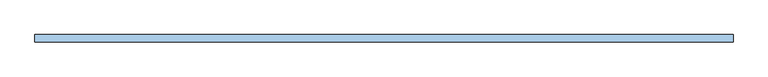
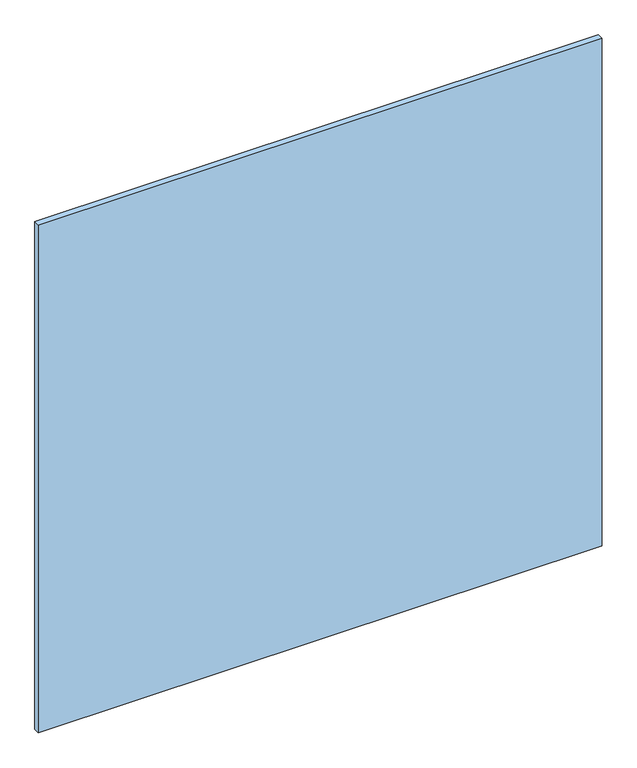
"""IFC4 building model written with IfcOpenShell, lengths in millimetres: window geometry, espejo biselado sin marco : ESP-2  espejo biselado 130 x 101."""

import ifcopenshell
import ifcopenshell.guid

model = None  # the IFC model being written
_history = None  # IfcOwnerHistory: only IFC2X3 demands one
_inside = {}  # id of a spatial element -> (the spatial element, [elements in it])
_under = {}  # id of a project, library or spatial element -> (it, [spatial elements below it])
_declared = {}  # id of a project -> (the project, [libraries it declares])
_typed = {}  # id of a type object -> (the type object, [elements of that type])
_made_of = {}  # id of a material, layer set ... -> (it, [elements and type objects made of it])


def new_model(schema):
    """Start an empty IFC model of exactly this schema.

    Asked for "IFC4X3", IfcOpenShell would pick the latest addendum, in which some entities
    have other attributes; the version numbers below select the first issue.
    IFC2X3 requires an IfcOwnerHistory on every rooted entity: one is made here for all.
    """
    global model, _history
    if schema == "IFC4X3":
        model = ifcopenshell.file(schema_version=(4, 3, 0, 0))
    else:
        model = ifcopenshell.file(schema=schema)
    _inside.clear()
    _under.clear()
    _declared.clear()
    _typed.clear()
    _made_of.clear()
    _history = None
    if model.schema == "IFC2X3":
        org = make("IfcOrganization", Name="unknown")
        user = make(
            "IfcPersonAndOrganization",
            ThePerson=make("IfcPerson", FamilyName="unknown"),
            TheOrganization=org,
        )
        app = make(
            "IfcApplication",
            ApplicationDeveloper=org,
            Version="unknown",
            ApplicationFullName="unknown",
            ApplicationIdentifier="unknown",
        )
        _history = make(
            "IfcOwnerHistory",
            OwningUser=user,
            OwningApplication=app,
            ChangeAction="ADDED",
            CreationDate=0,
        )
    return model


def make(cls, **values):
    """One entity of the class cls with the attributes given. An attribute that is None is left unset."""
    return model.create_entity(
        cls, **{name: value for name, value in values.items() if value is not None}
    )


def rooted(cls, **values):
    """An entity with a GlobalId (a new one), such as an element, a storey or a relation."""
    return make(cls, GlobalId=ifcopenshell.guid.new(), OwnerHistory=_history, **values)


def si_unit(unit_type, name, prefix=None):
    """IfcSIUnit, for example si_unit("LENGTHUNIT", "METRE", prefix="MILLI")."""
    return make("IfcSIUnit", UnitType=unit_type, Prefix=prefix, Name=name)


def assignment(units):
    """IfcUnitAssignment: the units of a project."""
    return None if units is None else make("IfcUnitAssignment", Units=units)


def point(xyz):
    """IfcCartesianPoint."""
    return None if xyz is None else make("IfcCartesianPoint", Coordinates=xyz)


def direction(xyz):
    """IfcDirection."""
    return None if xyz is None else make("IfcDirection", DirectionRatios=xyz)


def frame(location, z_axis=None, x_axis=None):
    """IfcAxis2Placement3D, a coordinate frame: its origin and axes. An axis left out is left unset."""
    return make(
        "IfcAxis2Placement3D",
        Location=point(location),
        Axis=direction(z_axis),
        RefDirection=direction(x_axis),
    )


def origin():
    """The frame at (0, 0, 0) with its axes left unset."""
    return frame((0.0, 0.0, 0.0))


def origin_with_axes():
    """The frame at (0, 0, 0) with the z axis (0, 0, 1) and the x axis (1, 0, 0) written out."""
    return frame((0.0, 0.0, 0.0), z_axis=(0.0, 0.0, 1.0), x_axis=(1.0, 0.0, 0.0))


def place(relative_to, where):
    """IfcLocalPlacement: puts the frame where relative to a parent placement (None: the world)."""
    return make(
        "IfcLocalPlacement", PlacementRelTo=relative_to, RelativePlacement=where
    )


def context(
    kind, dimensions, precision=None, world=None, true_north=None, identifier=None
):
    """IfcGeometricRepresentationContext, for example the 3D "Model" context."""
    return make(
        "IfcGeometricRepresentationContext",
        ContextIdentifier=identifier,
        ContextType=kind,
        CoordinateSpaceDimension=dimensions,
        Precision=precision,
        WorldCoordinateSystem=world,
        TrueNorth=true_north,
    )


def project(units=None, contexts=None):
    """IfcProject with its units and contexts."""
    return rooted(
        "IfcProject",
        Name="project",
        RepresentationContexts=contexts,
        UnitsInContext=assignment(units),
    )


def spatial(cls, under=None, at=None, **own):
    """A site, building, storey or space (cls), placed at a placement, below another one or the project."""
    s = rooted(cls, ObjectPlacement=at, **own)
    if under is not None:
        _under.setdefault(under.id(), (under, []))[1].append(s)
    return s


def polyline(points):
    """IfcPolyline through the points."""
    return make("IfcPolyline", Points=[point(p) for p in points])


def outline(outer, holes=None, kind="AREA"):
    """IfcArbitraryClosedProfileDef: a profile drawn as a closed curve; with holes, ...WithVoids."""
    if holes is None:
        return make("IfcArbitraryClosedProfileDef", ProfileType=kind, OuterCurve=outer)
    return make(
        "IfcArbitraryProfileDefWithVoids",
        ProfileType=kind,
        OuterCurve=outer,
        InnerCurves=holes,
    )


def extrude(swept, where, along, depth):
    """IfcExtrudedAreaSolid: the profile swept, set in the frame where, extruded along a direction by depth."""
    return make(
        "IfcExtrudedAreaSolid",
        SweptArea=swept,
        Position=where,
        ExtrudedDirection=direction(along),
        Depth=depth,
    )


def shape(context_of_items, identifier, shape_type, items):
    """IfcShapeRepresentation: the items that make up one representation, for example the "Body"."""
    return make(
        "IfcShapeRepresentation",
        ContextOfItems=context_of_items,
        RepresentationIdentifier=identifier,
        RepresentationType=shape_type,
        Items=items,
    )


def source(mapping_origin, context_of_items, identifier, shape_type, items):
    """IfcRepresentationMap: a shape defined once, which mapped items show again and again."""
    return make(
        "IfcRepresentationMap",
        MappingOrigin=mapping_origin,
        MappedRepresentation=shape(context_of_items, identifier, shape_type, items),
    )


def transform(
    local_origin,
    x_axis=None,
    y_axis=None,
    z_axis=None,
    scale=None,
    scale2=None,
    scale3=None,
    uniform=True,
):
    """IfcCartesianTransformationOperator3D, or its non-uniform kind. x_axis, y_axis, z_axis: its Axis1, 2, 3."""
    if uniform:
        return make(
            "IfcCartesianTransformationOperator3D",
            Axis1=direction(x_axis),
            Axis2=direction(y_axis),
            LocalOrigin=point(local_origin),
            Scale=scale,
            Axis3=direction(z_axis),
        )
    return make(
        "IfcCartesianTransformationOperator3DnonUniform",
        Axis1=direction(x_axis),
        Axis2=direction(y_axis),
        LocalOrigin=point(local_origin),
        Scale=scale,
        Axis3=direction(z_axis),
        Scale2=scale2,
        Scale3=scale3,
    )


def mapped(mapping_source, mapping_target):
    """IfcMappedItem: shows the shape of a source again, moved by a transform."""
    return make(
        "IfcMappedItem", MappingSource=mapping_source, MappingTarget=mapping_target
    )


def made_of(thing, what):
    """Note that an element or type object is made of a material, layer set ...; save() writes the relation."""
    if what is not None:
        _made_of.setdefault(what.id(), (what, []))[1].append(thing)
    return thing


def element(
    cls,
    number,
    at=None,
    inside=None,
    cuts=None,
    type_object=None,
    material=None,
    context=None,
    identifier="Body",
    shape_type=None,
    held_by="IfcProductDefinitionShape",
    body=None,
    shapes=None,
    **own,
):
    """One element of the class cls, such as IfcWall. Its Tag is "e" and its number.

    at: its placement. inside: the storey or other place that contains it. cuts: it is an
    opening in that element (IfcRelVoidsElement). A single representation is given by context,
    identifier, shape_type and body (its items); several are given by shapes. held_by: the class
    of the entity that holds the representations. save() writes the other relations.
    """
    e = rooted(cls, Tag="e%d" % number, ObjectPlacement=at, **own)
    if body is not None:
        shapes = [shape(context, identifier, shape_type, body)]
    if shapes is not None:
        e.Representation = make(held_by, Representations=shapes)
    if inside is not None:
        _inside.setdefault(inside.id(), (inside, []))[1].append(e)
    if cuts is not None:
        rooted(
            "IfcRelVoidsElement", RelatingBuildingElement=cuts, RelatedOpeningElement=e
        )
    if type_object is not None:
        _typed.setdefault(type_object.id(), (type_object, []))[1].append(e)
    return made_of(e, material)


def aggregate(whole, parts):
    """IfcRelAggregates: a whole, such as a stair, and the parts it consists of."""
    return rooted("IfcRelAggregates", RelatingObject=whole, RelatedObjects=parts)


def save(model, path):
    """Write the relations noted so far, then the file.

    IfcRelAggregates (storeys below a building ...), IfcRelContainedInSpatialStructure (elements
    in a storey), IfcRelDefinesByType, IfcRelAssociatesMaterial and IfcRelDeclares: one each for
    every whole, place, type object, material and project.
    """
    for whole, parts in _under.values():
        aggregate(whole, parts)
    for where, things in _inside.values():
        rooted(
            "IfcRelContainedInSpatialStructure",
            RelatedElements=things,
            RelatingStructure=where,
        )
    for kind, things in _typed.values():
        rooted("IfcRelDefinesByType", RelatedObjects=things, RelatingType=kind)
    for what, things in _made_of.values():
        rooted("IfcRelAssociatesMaterial", RelatedObjects=things, RelatingMaterial=what)
    for by, libraries in _declared.values():
        rooted("IfcRelDeclares", RelatingContext=by, RelatedDefinitions=libraries)
    model.write(path)


def window_621f8ad2(model_context):
    return source(origin(), model_context, "Body", "SweptSolid", [
        extrude(outline(polyline([(-525.0, 79.0), (-525.0, 90.0), (525.0, 90.0), (525.0, 79.0), (-525.0, 79.0)])), origin_with_axes(), (0.0, 0.0, 1.0), 1000.0),
    ])


if __name__ == "__main__":
    model = new_model("IFC4")
    model_context = context("Model", 3, world=origin())
    ifc_project = project(units=[si_unit("LENGTHUNIT", "METRE", prefix="MILLI")], contexts=[model_context])
    site = spatial("IfcSite", under=ifc_project)
    building = spatial("IfcBuilding", under=site)
    placement = place(None, origin())
    window_shape = window_621f8ad2(model_context)
    element("IfcWindow", 1, ObjectType="espejo biselado sin marco : ESP-2  espejo biselado 130 x 101", at=placement, inside=building, context=model_context, shape_type="MappedRepresentation", body=[
        mapped(window_shape, transform((0.0, 0.0, 0.0), x_axis=(1.0, 0.0, 0.0), y_axis=(0.0, 1.0, 0.0), z_axis=(0.0, 0.0, 1.0))),
    ])
    save(model, "model.ifc")
